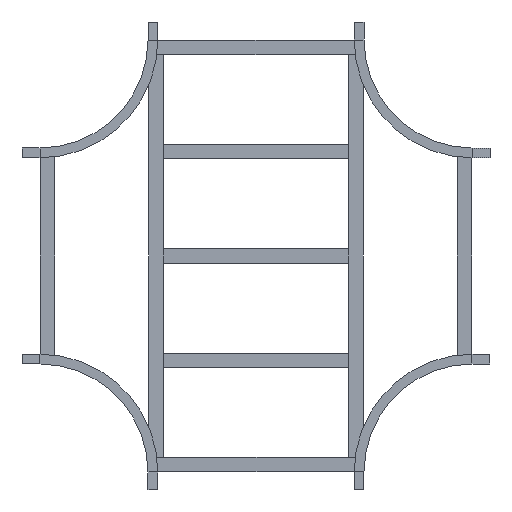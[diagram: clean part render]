
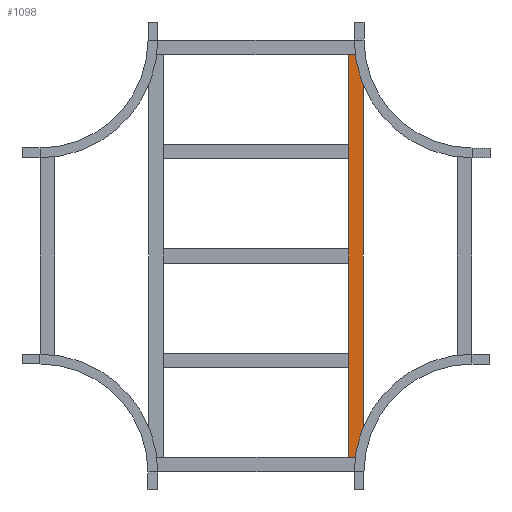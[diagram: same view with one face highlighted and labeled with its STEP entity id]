
A CAD part, front view. The second image highlights one B-rep face of the part: STEP entity #1098.
In plain terms, the highlighted planar face has unit normal (0, -1, 0).
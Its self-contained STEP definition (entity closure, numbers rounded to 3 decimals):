
#17 = VECTOR ( 'NONE', #234, 1000. ) ;
#129 = EDGE_CURVE ( 'NONE', #685, #717, #1289, .T. ) ;
#133 = VECTOR ( 'NONE', #366, 1000. ) ;
#162 = EDGE_CURVE ( 'NONE', #949, #950, #603, .T. ) ;
#193 = DIRECTION ( 'NONE',  ( -1., 0., 0. ) ) ;
#201 = AXIS2_PLACEMENT_3D ( 'NONE', #535, #451, #1310 ) ;
#234 = DIRECTION ( 'NONE',  ( 0., 0., -1. ) ) ;
#284 = ORIENTED_EDGE ( 'NONE', *, *, #162, .F. ) ;
#292 = VECTOR ( 'NONE', #193, 1000. ) ;
#314 = CARTESIAN_POINT ( 'NONE',  ( 559.5, 0., 20.25 ) ) ;
#337 = LINE ( 'NONE', #779, #17 ) ;
#366 = DIRECTION ( 'NONE',  ( 0., 0., -1. ) ) ;
#422 = FACE_OUTER_BOUND ( 'NONE', #708, .T. ) ;
#437 = ORIENTED_EDGE ( 'NONE', *, *, #1164, .F. ) ;
#451 = DIRECTION ( 'NONE',  ( 0., 1., 0. ) ) ;
#519 = CARTESIAN_POINT ( 'NONE',  ( -559.5, 0., -20.25 ) ) ;
#535 = CARTESIAN_POINT ( 'NONE',  ( 559.5, 0., 20.25 ) ) ;
#583 = CARTESIAN_POINT ( 'NONE',  ( 559.5, 0., -20.25 ) ) ;
#603 = LINE ( 'NONE', #583, #937 ) ;
#685 = VERTEX_POINT ( 'NONE', #766 ) ;
#708 = EDGE_LOOP ( 'NONE', ( #1004, #284, #437, #972 ) ) ;
#717 = VERTEX_POINT ( 'NONE', #1178 ) ;
#766 = CARTESIAN_POINT ( 'NONE',  ( 559.5, 0., 20.25 ) ) ;
#779 = CARTESIAN_POINT ( 'NONE',  ( 559.5, 0., 20.25 ) ) ;
#937 = VECTOR ( 'NONE', #1018, 1000. ) ;
#949 = VERTEX_POINT ( 'NONE', #1269 ) ;
#950 = VERTEX_POINT ( 'NONE', #519 ) ;
#972 = ORIENTED_EDGE ( 'NONE', *, *, #129, .T. ) ;
#1004 = ORIENTED_EDGE ( 'NONE', *, *, #1192, .T. ) ;
#1018 = DIRECTION ( 'NONE',  ( -1., 0., 0. ) ) ;
#1098 = ADVANCED_FACE ( 'NONE', ( #422 ), #1203, .F. ) ;
#1111 = LINE ( 'NONE', #1246, #133 ) ;
#1164 = EDGE_CURVE ( 'NONE', #685, #949, #337, .T. ) ;
#1178 = CARTESIAN_POINT ( 'NONE',  ( -559.5, 0., 20.25 ) ) ;
#1192 = EDGE_CURVE ( 'NONE', #717, #950, #1111, .T. ) ;
#1203 = PLANE ( 'NONE',  #201 ) ;
#1246 = CARTESIAN_POINT ( 'NONE',  ( -559.5, 0., 20.25 ) ) ;
#1269 = CARTESIAN_POINT ( 'NONE',  ( 559.5, 0., -20.25 ) ) ;
#1289 = LINE ( 'NONE', #314, #292 ) ;
#1310 = DIRECTION ( 'NONE',  ( 0., 0., 1. ) ) ;
